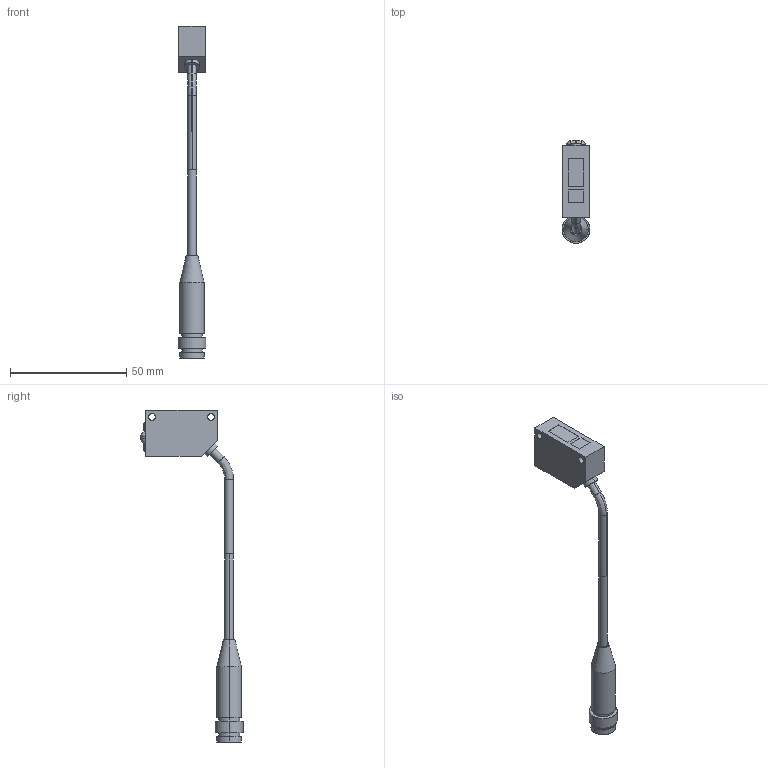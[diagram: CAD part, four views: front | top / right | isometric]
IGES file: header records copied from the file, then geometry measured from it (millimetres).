
Start section: SolidWorks IGES FILE using analytic representation for surfaces
Global section: file name: \\intra-srv04\開発データ\CAD_Data\CAD委員会\3D電子ｶﾀﾛｸﾞ\製品カタログ（新）\0_IGES\CX-441-J.IGS,41HSolidWorks 2004; native system: by SolidWorks Corporation; preprocessor: Version 5.3; author: yk0651; date: 050908.105328; units: millimetre
Bounding box: 12 x 44 x 143 mm (x, y, z)
Surface area: 5166.8 mm2 (no closed solid volume)
Topology: 0 solids, 0 shells, 105 faces, 1361 edges, 1359 vertices
Faces by surface type: bspline 54, revolution 51
